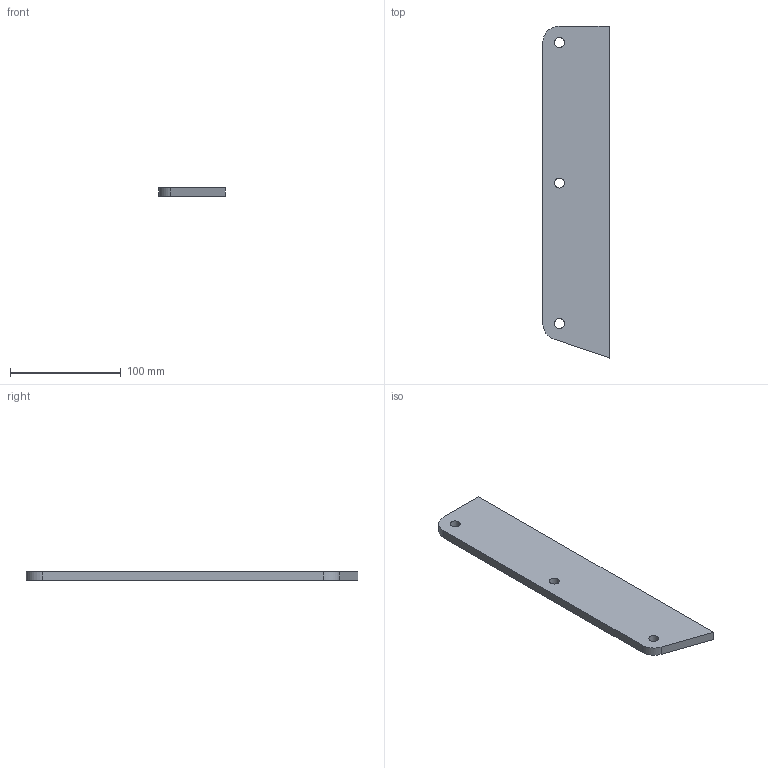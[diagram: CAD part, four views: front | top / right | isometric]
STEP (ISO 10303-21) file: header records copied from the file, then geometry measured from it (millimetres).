
FILE_DESCRIPTION(/* description */ (''),/* implementation_level */ '2;1');
FILE_NAME(/* name */ 'Pos138-Plaatwerk D= 8-S235JRG2-3st',/* time_stamp */ '2024-08-06T13:37:44+02:00',/* author */ (''),/* organization */ (''),/* preprocessor_version */ 'ST-DEVELOPER v16.5',/* originating_system */ 'HiCAD 2024 2901.2 Build 361',/* authorisation */ '');
FILE_SCHEMA (('AUTOMOTIVE_DESIGN { 1 0 10303 214 1 1 1 1 }'));
Length unit declared in the file: millimetre
Products named in the file (1): Pos138-Plaatwerk D= 8-S235JRG2-3st
Bounding box: 60 x 300.28 x 8 mm (x, y, z)
Volume: 137150.7 mm3; surface area: 40520.3 mm2
Topology: 1 solids, 1 shells, 11 faces, 30 edges, 21 vertices
Faces by surface type: plane 6, cylinder 5
Full cylindrical faces by diameter (mm): 9 x3
Entity records: 586 total; most frequent: DIRECTION 56, CARTESIAN_POINT 53, PRESENTATION_STYLE_ASSIGNMENT 49, COLOUR_RGB 49, DRAUGHTING_PRE_DEFINED_CURVE_FONT 48, CURVE_STYLE 48, OVER_RIDING_STYLED_ITEM 48, ORIENTED_EDGE 48
